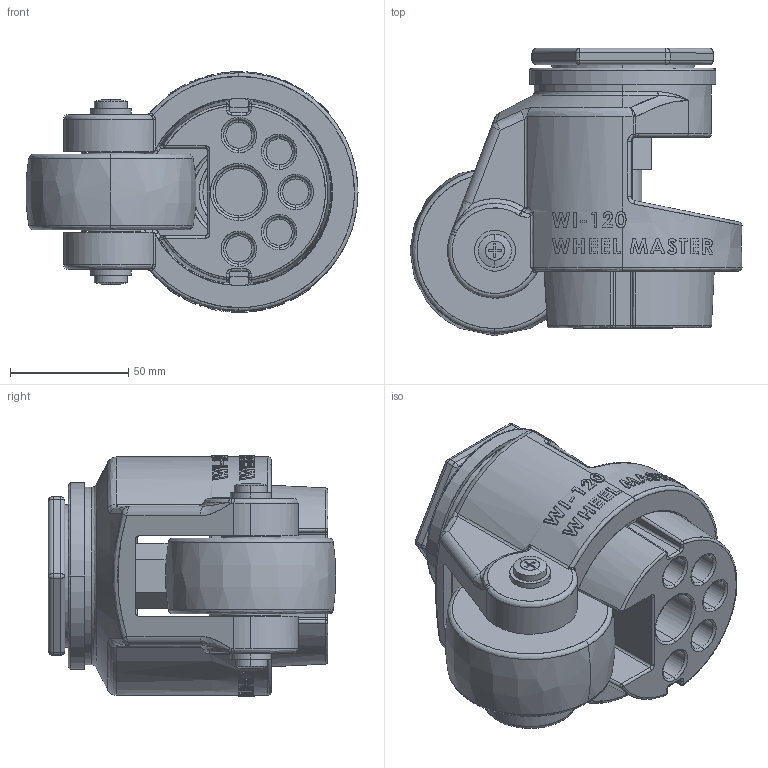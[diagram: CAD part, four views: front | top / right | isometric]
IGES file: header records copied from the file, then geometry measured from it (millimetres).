
Start section: SolidWorks IGES file using analytic representation for surfaces
Global section: file name: 1HH:\辫屈霖累诀\快老墨促肺弊(NEW)\权其捞瘤诀肺靛侩3D\WI120S.IGS; native system: SolidWorks 2010; preprocessor: SolidWorks 2010; author: Administrator; date: 110129.144712; units: millimetre
Bounding box: 140.17 x 121.37 x 101.6 mm (x, y, z)
Surface area: 126061.7 mm2 (no closed solid volume)
Topology: 0 solids, 0 shells, 1217 faces, 13554 edges, 13510 vertices
Faces by surface type: bspline 864, revolution 353
